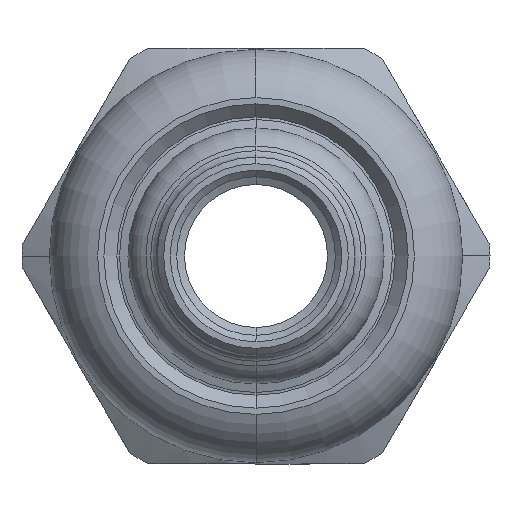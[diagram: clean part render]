
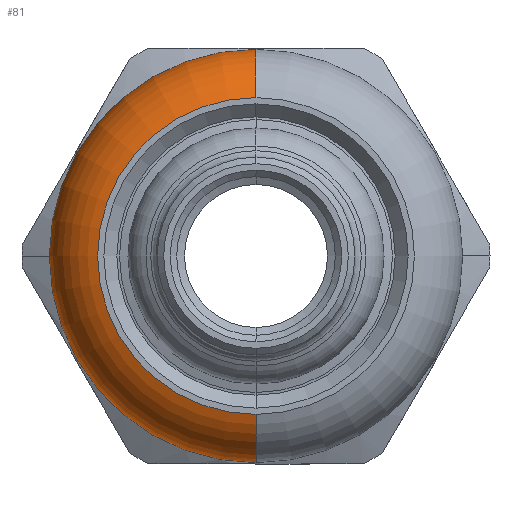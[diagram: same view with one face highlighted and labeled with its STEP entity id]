
A CAD part, left-side view. The second image highlights one B-rep face of the part: STEP entity #81.
In plain terms, the highlighted toroidal (fillet/blend) face has major radius 10.4 mm and minor radius 5.5 mm.
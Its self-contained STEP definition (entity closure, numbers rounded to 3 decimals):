
#25 = DIRECTION ( 'NONE',  ( -1., 0., 0. ) ) ;
#73 = ORIENTED_EDGE ( 'NONE', *, *, #2550, .T. ) ;
#81 = ADVANCED_FACE ( 'NONE', ( #1082 ), #3127, .T. ) ;
#134 = CIRCLE ( 'NONE', #2561, 15.9 ) ;
#161 = AXIS2_PLACEMENT_3D ( 'NONE', #191, #2382, #4528 ) ;
#191 = CARTESIAN_POINT ( 'NONE',  ( 10.598, 0., 10.4 ) ) ;
#285 = AXIS2_PLACEMENT_3D ( 'NONE', #1617, #4136, #1248 ) ;
#335 = EDGE_LOOP ( 'NONE', ( #811, #73, #385, #2569, #369 ) ) ;
#369 = ORIENTED_EDGE ( 'NONE', *, *, #568, .F. ) ;
#385 = ORIENTED_EDGE ( 'NONE', *, *, #2465, .F. ) ;
#501 = AXIS2_PLACEMENT_3D ( 'NONE', #3919, #1754, #4264 ) ;
#568 = EDGE_CURVE ( 'NONE', #1989, #1223, #4410, .T. ) ;
#759 = CARTESIAN_POINT ( 'NONE',  ( 15.8, 0., 12.185 ) ) ;
#811 = ORIENTED_EDGE ( 'NONE', *, *, #1631, .T. ) ;
#838 = AXIS2_PLACEMENT_3D ( 'NONE', #2792, #1702, #3866 ) ;
#1022 = VERTEX_POINT ( 'NONE', #1839 ) ;
#1072 = DIRECTION ( 'NONE',  ( 0., 1., 0. ) ) ;
#1082 = FACE_OUTER_BOUND ( 'NONE', #335, .T. ) ;
#1223 = VERTEX_POINT ( 'NONE', #2391 ) ;
#1248 = DIRECTION ( 'NONE',  ( 0., 0., 1. ) ) ;
#1480 = AXIS2_PLACEMENT_3D ( 'NONE', #3246, #1072, #3612 ) ;
#1617 = CARTESIAN_POINT ( 'NONE',  ( 15.8, 0., 0. ) ) ;
#1631 = EDGE_CURVE ( 'NONE', #1989, #1652, #1751, .T. ) ;
#1652 = VERTEX_POINT ( 'NONE', #1999 ) ;
#1702 = DIRECTION ( 'NONE',  ( -1., 0., 0. ) ) ;
#1751 = CIRCLE ( 'NONE', #285, 12.185 ) ;
#1754 = DIRECTION ( 'NONE',  ( -1., 0., 0. ) ) ;
#1800 = CIRCLE ( 'NONE', #501, 15.9 ) ;
#1839 = CARTESIAN_POINT ( 'NONE',  ( 10.598, 15.9, 0. ) ) ;
#1989 = VERTEX_POINT ( 'NONE', #759 ) ;
#1999 = CARTESIAN_POINT ( 'NONE',  ( 15.8, 0., -12.185 ) ) ;
#2186 = CARTESIAN_POINT ( 'NONE',  ( 10.598, 0., 0. ) ) ;
#2382 = DIRECTION ( 'NONE',  ( 0., -1., 0. ) ) ;
#2391 = CARTESIAN_POINT ( 'NONE',  ( 10.598, 0., 15.9 ) ) ;
#2465 = EDGE_CURVE ( 'NONE', #1022, #3944, #1800, .T. ) ;
#2550 = EDGE_CURVE ( 'NONE', #1652, #3944, #4327, .T. ) ;
#2560 = DIRECTION ( 'NONE',  ( 0., 0., 1. ) ) ;
#2561 = AXIS2_PLACEMENT_3D ( 'NONE', #2186, #25, #2560 ) ;
#2569 = ORIENTED_EDGE ( 'NONE', *, *, #4443, .F. ) ;
#2792 = CARTESIAN_POINT ( 'NONE',  ( 10.598, 0., 0. ) ) ;
#3127 = TOROIDAL_SURFACE ( 'NONE', #838, 10.4, 5.5 ) ;
#3246 = CARTESIAN_POINT ( 'NONE',  ( 10.598, 0., -10.4 ) ) ;
#3612 = DIRECTION ( 'NONE',  ( 0., 0., 1. ) ) ;
#3866 = DIRECTION ( 'NONE',  ( 0., 0., 1. ) ) ;
#3919 = CARTESIAN_POINT ( 'NONE',  ( 10.598, 0., 0. ) ) ;
#3944 = VERTEX_POINT ( 'NONE', #4602 ) ;
#4136 = DIRECTION ( 'NONE',  ( -1., 0., 0. ) ) ;
#4264 = DIRECTION ( 'NONE',  ( 0., 0., 1. ) ) ;
#4327 = CIRCLE ( 'NONE', #1480, 5.5 ) ;
#4410 = CIRCLE ( 'NONE', #161, 5.5 ) ;
#4443 = EDGE_CURVE ( 'NONE', #1223, #1022, #134, .T. ) ;
#4528 = DIRECTION ( 'NONE',  ( 0., 0., -1. ) ) ;
#4602 = CARTESIAN_POINT ( 'NONE',  ( 10.598, 0., -15.9 ) ) ;
